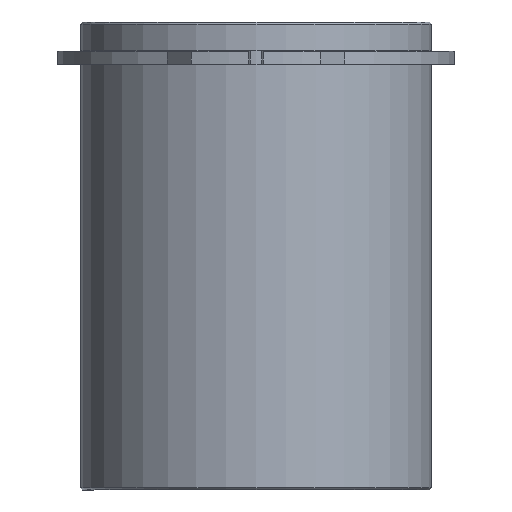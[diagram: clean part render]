
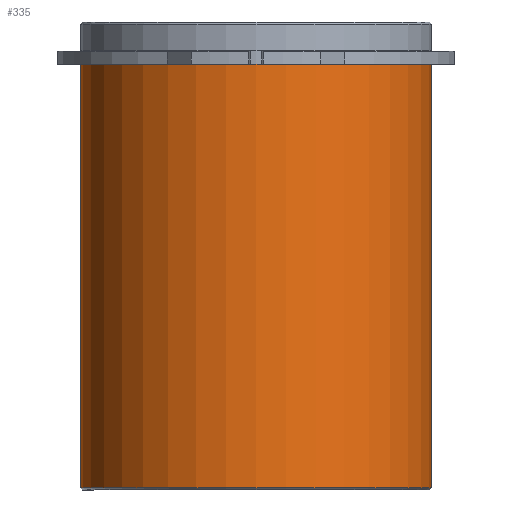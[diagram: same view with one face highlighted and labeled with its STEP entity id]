
A CAD part, front view. The second image highlights one B-rep face of the part: STEP entity #335.
In plain terms, the highlighted cylindrical face has radius 23.625 mm (diameter 47.25 mm), a partial arc.
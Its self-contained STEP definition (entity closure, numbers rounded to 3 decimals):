
#294=CARTESIAN_POINT('',(0.0,0.,-28.5));
#295=DIRECTION('',(0.0,0.,1.0));
#296=DIRECTION('',(1.0,0.0,0.0));
#297=AXIS2_PLACEMENT_3D('',#294,#295,#296);
#298=CYLINDRICAL_SURFACE('',#297,23.625);
#299=CARTESIAN_POINT('',(23.625,0.0,0.0));
#300=VERTEX_POINT('',#299);
#301=CARTESIAN_POINT('',(23.625,0.,-57.0));
#302=VERTEX_POINT('',#301);
#303=CARTESIAN_POINT('',(23.625,0.0,0.0));
#304=DIRECTION('',(0.0,0.0,-1.0));
#305=VECTOR('',#304,57.0);
#306=LINE('',#303,#305);
#307=EDGE_CURVE('',#300,#302,#306,.T.);
#308=ORIENTED_EDGE('',*,*,#307,.F.);
#309=CARTESIAN_POINT('',(-23.625,0.,0.));
#310=VERTEX_POINT('',#309);
#311=CARTESIAN_POINT('',(0.0,0.0,0.0));
#312=DIRECTION('',(0.0,0.0,1.0));
#313=DIRECTION('',(1.0,0.0,0.0));
#314=AXIS2_PLACEMENT_3D('',#311,#312,#313);
#315=CIRCLE('',#314,23.625);
#316=EDGE_CURVE('',#310,#300,#315,.T.);
#317=ORIENTED_EDGE('',*,*,#316,.F.);
#318=CARTESIAN_POINT('',(-23.625,0.,-57.));
#319=VERTEX_POINT('',#318);
#320=CARTESIAN_POINT('',(-23.625,0.,0.));
#321=DIRECTION('',(0.0,0.0,-1.0));
#322=VECTOR('',#321,57.);
#323=LINE('',#320,#322);
#324=EDGE_CURVE('',#310,#319,#323,.T.);
#325=ORIENTED_EDGE('',*,*,#324,.T.);
#326=CARTESIAN_POINT('',(0.0,0.,-57.0));
#327=DIRECTION('',(0.0,0.0,1.0));
#328=DIRECTION('',(1.0,0.0,0.0));
#329=AXIS2_PLACEMENT_3D('',#326,#327,#328);
#330=CIRCLE('',#329,23.625);
#331=EDGE_CURVE('',#319,#302,#330,.T.);
#332=ORIENTED_EDGE('',*,*,#331,.T.);
#333=EDGE_LOOP('',(#308,#317,#325,#332));
#334=FACE_OUTER_BOUND('',#333,.T.);
#335=ADVANCED_FACE('',(#334),#298,.T.);
